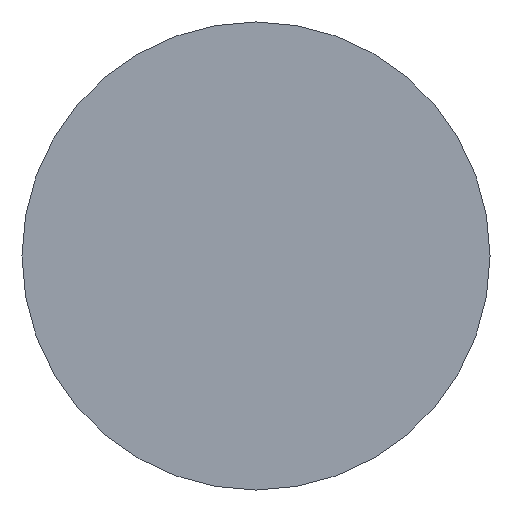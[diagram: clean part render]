
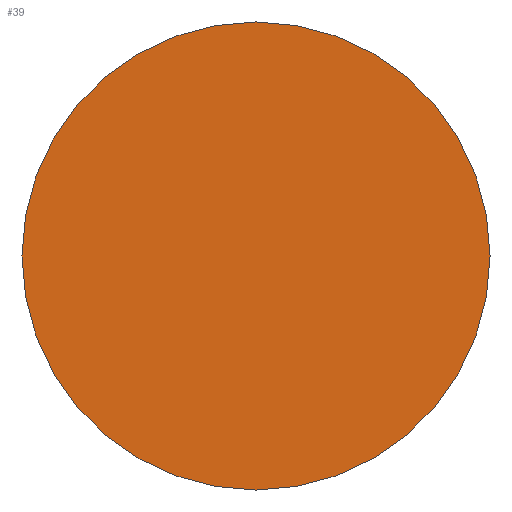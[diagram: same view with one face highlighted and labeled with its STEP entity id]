
A CAD part, front view. The second image highlights one B-rep face of the part: STEP entity #39.
In plain terms, the highlighted planar face has unit normal (0, -1, 0).
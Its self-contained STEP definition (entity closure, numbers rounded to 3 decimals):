
#18=FACE_OUTER_BOUND('',#21,.T.);
#21=EDGE_LOOP('',(#31));
#24=CIRCLE('',#57,3.84);
#26=VERTEX_POINT('',#76);
#28=EDGE_CURVE('',#26,#26,#24,.T.);
#31=ORIENTED_EDGE('',*,*,#28,.T.);
#37=PLANE('',#56);
#39=ADVANCED_FACE('',(#18),#37,.F.);
#56=AXIS2_PLACEMENT_3D('',#75,#63,#64);
#57=AXIS2_PLACEMENT_3D('',#77,#65,#66);
#63=DIRECTION('center_axis',(0.,1.,0.));
#64=DIRECTION('ref_axis',(1.,0.,0.));
#65=DIRECTION('center_axis',(0.,-1.,0.));
#66=DIRECTION('ref_axis',(1.,0.,0.));
#75=CARTESIAN_POINT('Origin',(0.,-25.,0.));
#76=CARTESIAN_POINT('',(-3.84,-25.,0.));
#77=CARTESIAN_POINT('Origin',(0.,-25.,0.));
